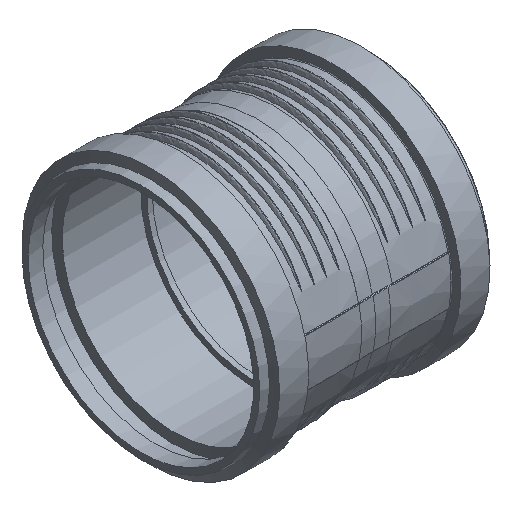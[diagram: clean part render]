
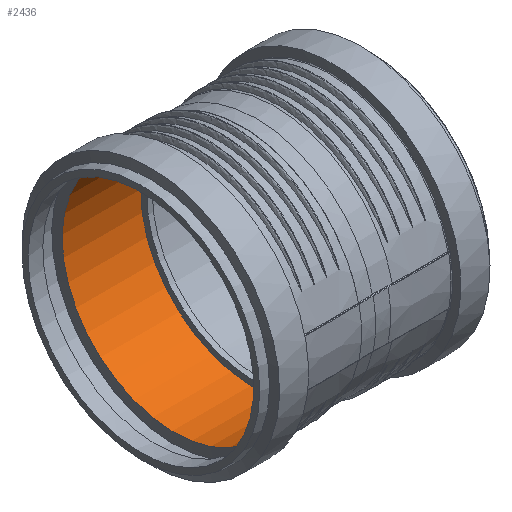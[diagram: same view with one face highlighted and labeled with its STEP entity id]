
A CAD part, isometric view. The second image highlights one B-rep face of the part: STEP entity #2436.
In plain terms, the highlighted cylindrical face has radius 80.6 mm (diameter 161.2 mm), a full revolution.
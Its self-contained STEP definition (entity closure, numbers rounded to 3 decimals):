
#216=FACE_BOUND('',#458,.T.);
#263=CYLINDRICAL_SURFACE('',#2634,80.6);
#282=FACE_OUTER_BOUND('',#457,.T.);
#457=EDGE_LOOP('',(#1545));
#458=EDGE_LOOP('',(#1546));
#676=CIRCLE('',#2635,80.6);
#677=CIRCLE('',#2636,80.6);
#973=VERTEX_POINT('',#4963);
#974=VERTEX_POINT('',#4965);
#1197=EDGE_CURVE('',#973,#973,#676,.T.);
#1198=EDGE_CURVE('',#974,#974,#677,.T.);
#1545=ORIENTED_EDGE('',*,*,#1197,.F.);
#1546=ORIENTED_EDGE('',*,*,#1198,.F.);
#2436=ADVANCED_FACE('',(#282,#216),#263,.F.);
#2634=AXIS2_PLACEMENT_3D('',#4962,#2926,#2927);
#2635=AXIS2_PLACEMENT_3D('',#4964,#2928,#2929);
#2636=AXIS2_PLACEMENT_3D('',#4966,#2930,#2931);
#2926=DIRECTION('center_axis',(-1.,0.,0.));
#2927=DIRECTION('ref_axis',(0.,-0.878,0.479));
#2928=DIRECTION('center_axis',(-1.,0.,0.));
#2929=DIRECTION('ref_axis',(0.,1.,0.));
#2930=DIRECTION('center_axis',(1.,0.,0.));
#2931=DIRECTION('ref_axis',(0.,-0.878,0.479));
#4962=CARTESIAN_POINT('Origin',(-4.9,0.,0.));
#4963=CARTESIAN_POINT('',(-1.9,70.733,-38.642));
#4964=CARTESIAN_POINT('Origin',(-1.9,0.,0.));
#4965=CARTESIAN_POINT('',(-58.3,70.733,-38.642));
#4966=CARTESIAN_POINT('Origin',(-58.3,0.,0.));
